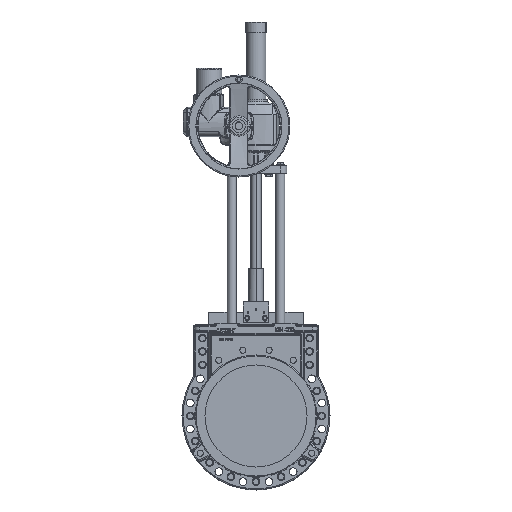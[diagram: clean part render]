
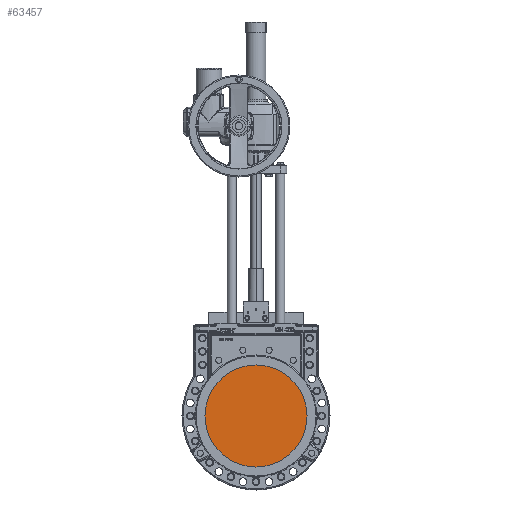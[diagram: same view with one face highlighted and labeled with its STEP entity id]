
A CAD part, top view. The second image highlights one B-rep face of the part: STEP entity #63457.
In plain terms, the highlighted planar face has unit normal (0, 0, 1).
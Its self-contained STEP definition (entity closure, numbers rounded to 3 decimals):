
#1900 = DIRECTION ( 'NONE',  ( 1., 0., 0. ) ) ;
#7120 = VERTEX_POINT ( 'NONE', #160023 ) ;
#8960 = EDGE_LOOP ( 'NONE', ( #40288, #172688 ) ) ;
#22712 = DIRECTION ( 'NONE',  ( 1., 0., 0. ) ) ;
#25802 = EDGE_CURVE ( 'NONE', #131823, #7120, #41106, .T. ) ;
#27324 = DIRECTION ( 'NONE',  ( 0., 0., 1. ) ) ;
#27399 = AXIS2_PLACEMENT_3D ( 'NONE', #49026, #102617, #22712 ) ;
#33678 = AXIS2_PLACEMENT_3D ( 'NONE', #107249, #27324, #120631 ) ;
#33873 = AXIS2_PLACEMENT_3D ( 'NONE', #161725, #81870, #1900 ) ;
#36800 = CIRCLE ( 'NONE', #33873, 200. ) ;
#40059 = CARTESIAN_POINT ( 'NONE',  ( 200., 0., -0.25 ) ) ;
#40288 = ORIENTED_EDGE ( 'NONE', *, *, #66853, .T. ) ;
#41106 = CIRCLE ( 'NONE', #33678, 200. ) ;
#49026 = CARTESIAN_POINT ( 'NONE',  ( 0., 0., -0.25 ) ) ;
#51708 = FACE_OUTER_BOUND ( 'NONE', #8960, .T. ) ;
#63457 = ADVANCED_FACE ( 'NONE', ( #51708 ), #155599, .T. ) ;
#66853 = EDGE_CURVE ( 'NONE', #7120, #131823, #36800, .T. ) ;
#81870 = DIRECTION ( 'NONE',  ( 0., 0., 1. ) ) ;
#102617 = DIRECTION ( 'NONE',  ( 0., 0., 1. ) ) ;
#107249 = CARTESIAN_POINT ( 'NONE',  ( 0., 0., -0.25 ) ) ;
#120631 = DIRECTION ( 'NONE',  ( 1., 0., 0. ) ) ;
#131823 = VERTEX_POINT ( 'NONE', #40059 ) ;
#155599 = PLANE ( 'NONE',  #27399 ) ;
#160023 = CARTESIAN_POINT ( 'NONE',  ( -200., 0., -0.25 ) ) ;
#161725 = CARTESIAN_POINT ( 'NONE',  ( 0., 0., -0.25 ) ) ;
#172688 = ORIENTED_EDGE ( 'NONE', *, *, #25802, .T. ) ;
